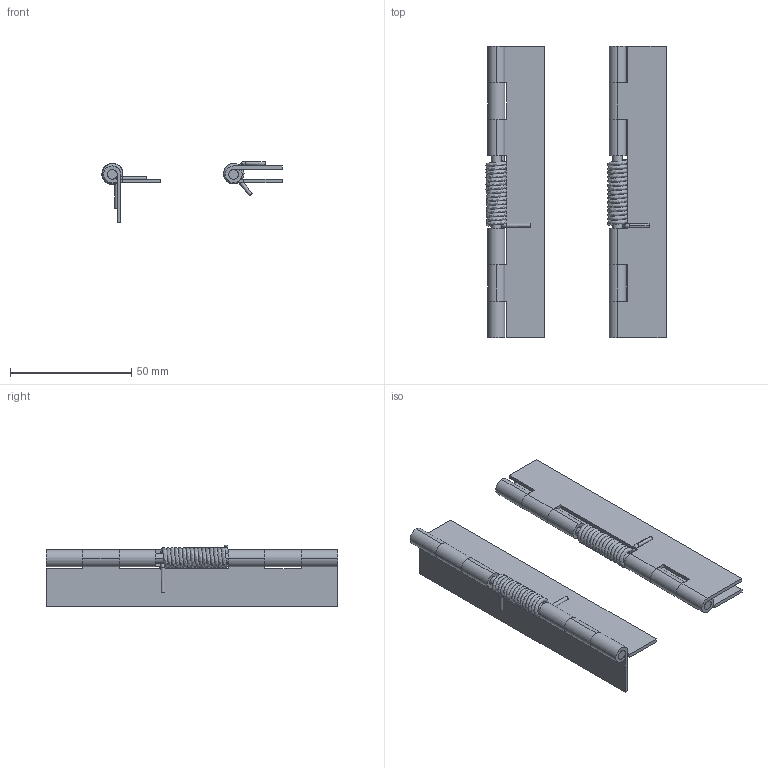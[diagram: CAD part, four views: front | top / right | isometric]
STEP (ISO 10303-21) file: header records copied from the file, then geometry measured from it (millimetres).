
FILE_DESCRIPTION((''),'2;1');
FILE_NAME('6164.stp','2011-05-27T09:49:41',(''),(''),'Mechanical Desktop 2006','Mechanical Desktop 2006',', , ');
FILE_SCHEMA(('CONFIG_CONTROL_DESIGN'));
Length unit declared in the file: millimetre
Products named in the file (5): 6164; DREHFEDERN - 1.600000 X 8.400000 X 15.000000; TEIL2; TEIL1; TEIL3
Assembly tree (4 placements, depth 2):
  6164
    DREHFEDERN - 1.600000 X 8.400000 X 15.000000
    TEIL2
    TEIL1
    TEIL3
Bounding box: 74.26 x 120 x 25.5 mm (x, y, z)
Volume: 20902.1 mm3; surface area: 30922.8 mm2
Topology: 8 solids, 8 shells, 139 faces, 369 edges, 252 vertices
Faces by surface type: plane 72, bspline 59, cylinder 6, torus 2
Entity records: 18517 total; most frequent: CARTESIAN_POINT 15045, ORIENTED_EDGE 718, DIRECTION 656, EDGE_CURVE 359, VERTEX_POINT 240, VECTOR 230, LINE 230, AXIS2_PLACEMENT_3D 213
